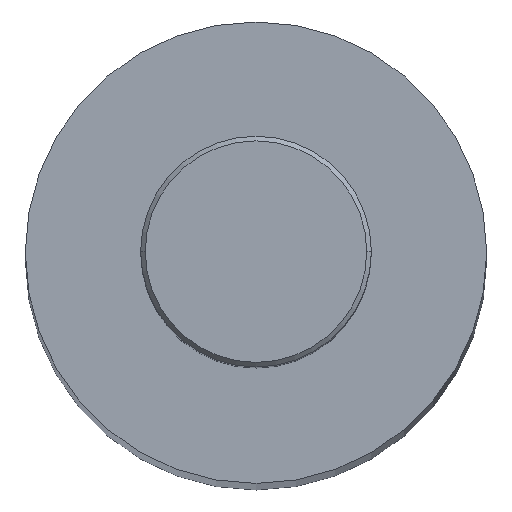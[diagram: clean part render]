
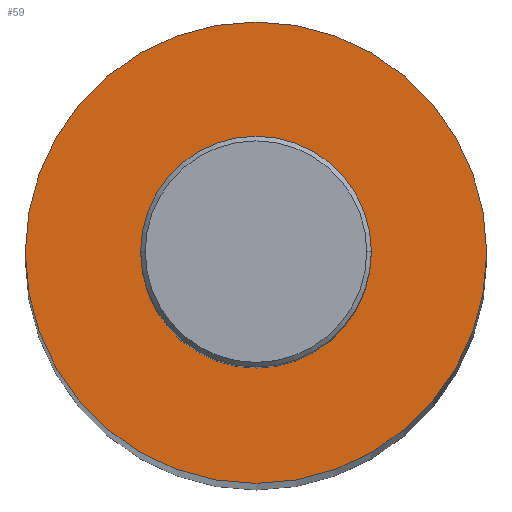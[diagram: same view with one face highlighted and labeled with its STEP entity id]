
A CAD part, top view. The second image highlights one B-rep face of the part: STEP entity #59.
In plain terms, the highlighted planar face has unit normal (0, 0, 1).
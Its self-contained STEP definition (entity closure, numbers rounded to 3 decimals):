
#59=ADVANCED_FACE('',(#113,#114),#115,.T.);
#113=FACE_BOUND('',#159,.T.);
#114=FACE_OUTER_BOUND('',#160,.T.);
#115=PLANE('',#161);
#159=EDGE_LOOP('',(#249,#250));
#160=EDGE_LOOP('',(#251,#252));
#161=AXIS2_PLACEMENT_3D('',#253,#254,#255);
#249=ORIENTED_EDGE('',*,*,#278,.T.);
#250=ORIENTED_EDGE('',*,*,#273,.T.);
#251=ORIENTED_EDGE('',*,*,#261,.T.);
#252=ORIENTED_EDGE('',*,*,#287,.T.);
#253=CARTESIAN_POINT('',(0.0,0.0,48.99));
#254=DIRECTION('',(0.0,0.0,1.0));
#255=DIRECTION('',(1.0,0.0,0.0));
#261=EDGE_CURVE('',#294,#298,#300,.T.);
#273=EDGE_CURVE('',#320,#317,#321,.T.);
#278=EDGE_CURVE('',#317,#320,#327,.T.);
#287=EDGE_CURVE('',#298,#294,#336,.T.);
#294=VERTEX_POINT('',#343);
#298=VERTEX_POINT('',#348);
#300=CIRCLE('',#351,3.0);
#317=VERTEX_POINT('',#372);
#320=VERTEX_POINT('',#376);
#321=CIRCLE('',#377,1.49);
#327=CIRCLE('',#384,1.49);
#336=CIRCLE('',#393,3.0);
#343=CARTESIAN_POINT('',(3.0,0.0,48.99));
#348=CARTESIAN_POINT('',(-3.0,0.,48.99));
#351=AXIS2_PLACEMENT_3D('',#403,#404,#405);
#372=CARTESIAN_POINT('',(1.49,0.0,48.99));
#376=CARTESIAN_POINT('',(-1.49,0.,48.99));
#377=AXIS2_PLACEMENT_3D('',#420,#421,#422);
#384=AXIS2_PLACEMENT_3D('',#430,#431,#432);
#393=AXIS2_PLACEMENT_3D('',#442,#443,#444);
#403=CARTESIAN_POINT('',(0.0,0.0,48.99));
#404=DIRECTION('',(0.0,0.0,1.0));
#405=DIRECTION('',(1.0,0.0,0.0));
#420=CARTESIAN_POINT('',(0.0,0.0,48.99));
#421=DIRECTION('',(0.0,0.0,-1.0));
#422=DIRECTION('',(1.0,0.0,0.0));
#430=CARTESIAN_POINT('',(0.0,0.0,48.99));
#431=DIRECTION('',(0.0,0.0,-1.0));
#432=DIRECTION('',(1.0,0.0,0.0));
#442=CARTESIAN_POINT('',(0.0,0.0,48.99));
#443=DIRECTION('',(0.0,0.0,1.0));
#444=DIRECTION('',(1.0,0.0,0.0));
